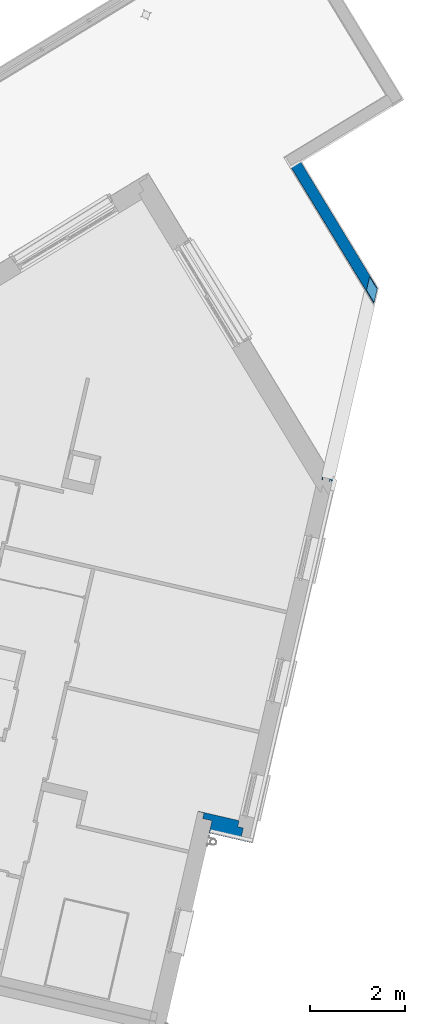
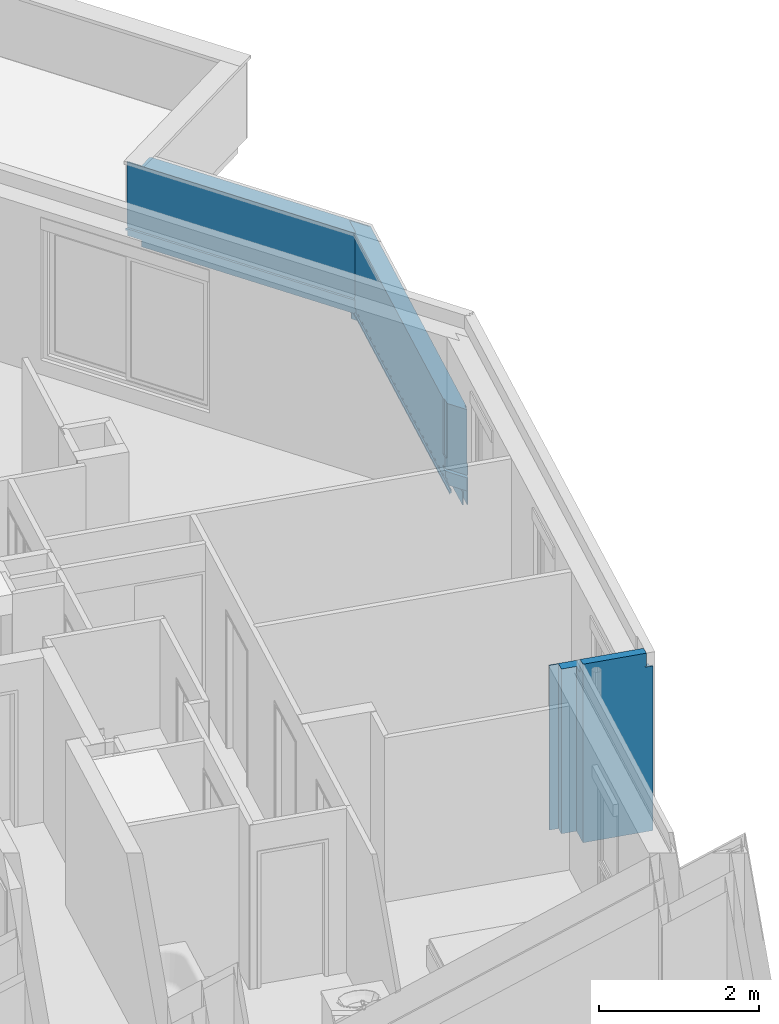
# One storey, part 51 of 91: 3 walls.
"""IFC2X3 building model written with IfcOpenShell, lengths in metres."""

from ifc_helpers import new_model, entity, si_unit, converted_unit, derived_unit, money_unit, direction, frame, origin_with_axes, place, context, subcontext, project, spatial, faceted_brep, material, material_list, type_object, element, save


model = new_model("IFC2X3")

# Units and contexts
model_context = context("Model", 3, precision=1e-05, world=origin_with_axes(), true_north=direction((0.0, 1.0)))
body_context = subcontext(model_context, "Body", "Model", "MODEL_VIEW")
ifc_project = project(units=[si_unit("LENGTHUNIT", "METRE"), si_unit("AREAUNIT", "SQUARE_METRE"), si_unit("VOLUMEUNIT", "CUBIC_METRE"), converted_unit("PLANEANGLEUNIT", "DEGREE", entity("IfcPlaneAngleMeasure", 0.0174532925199), si_unit("PLANEANGLEUNIT", "RADIAN"), dimensions=[0, 0, 0, 0, 0, 0, 0]), si_unit("SOLIDANGLEUNIT", "STERADIAN"), money_unit("EUR"), converted_unit("TIMEUNIT", "Year", entity("IfcTimeMeasure", 31556926.0), si_unit("TIMEUNIT", "SECOND"), dimensions=[0, 0, 1, 0, 0, 0, 0]), si_unit("MASSUNIT", "GRAM", prefix="KILO"), si_unit("THERMODYNAMICTEMPERATUREUNIT", "DEGREE_CELSIUS"), si_unit("LUMINOUSINTENSITYUNIT", "LUMEN"), si_unit("ENERGYUNIT", "JOULE", prefix="MEGA"), derived_unit("THERMALCONDUCTANCEUNIT", [(si_unit("POWERUNIT", "WATT"), 1), (si_unit("LENGTHUNIT", "METRE"), -1), (si_unit("THERMODYNAMICTEMPERATUREUNIT", "KELVIN"), -1)]), derived_unit("SPECIFICHEATCAPACITYUNIT", [(si_unit("ENERGYUNIT", "JOULE"), 1), (si_unit("MASSUNIT", "GRAM", prefix="KILO"), -1), (si_unit("THERMODYNAMICTEMPERATUREUNIT", "KELVIN"), -1)]), derived_unit("MASSDENSITYUNIT", [(si_unit("MASSUNIT", "GRAM", prefix="KILO"), 1), (si_unit("VOLUMEUNIT", "CUBIC_METRE"), -1)])], contexts=[model_context])

# Site, building, storey
site_placement = place(None, origin_with_axes())
site = spatial("IfcSite", under=ifc_project, at=site_placement, Name="Site", CompositionType="ELEMENT")
building_placement = place(site_placement, origin_with_axes())
building = spatial("IfcBuilding", under=site, at=building_placement, Name="Bâtiment", CompositionType="ELEMENT")
storey_placement = place(building_placement, frame((0.0, 0.0, 5.44), z_axis=(0.0, 0.0, 1.0), x_axis=(1.0, 0.0, 0.0)))
storey = spatial("IfcBuildingStorey", under=building, at=storey_placement, Name="R+2", CompositionType="ELEMENT", Elevation=5.44)

# Walls
ifc_material_1 = material(Name="Finition int - Plaque de plâtre")
ifc_material_2 = material(Name="Isolation - Polystyrène extrudé")
ifc_material_3 = material(Name="Bloc ELITHERM")
ifc_material_4 = material(Name="Mortier")
ifc_material_5 = material(Name="Béton cellulaire")
ifc_material_6 = material(Name="Bois - Lattage")
ifc_material_7 = material(Name="Finition ext - Bardage bois")
ifc_material_list_1 = material_list([ifc_material_1, ifc_material_2, ifc_material_3, ifc_material_4, ifc_material_5, ifc_material_6, ifc_material_7])
wall_type_1 = type_object("IfcWallType", Name="Mur ALKERN + planelle 21 BARDAGE courant 395 x 2720", PredefinedType="USERDEFINED")
wall_1_placement = place(storey_placement, frame((-1.12675166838, 6.60234837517, 0.0), z_axis=(0.0, 0.0, 1.0), x_axis=(0.974387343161, -0.224876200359, 0.0)))
element("IfcWall", 1, at=wall_1_placement, inside=storey, type_object=wall_type_1, material=ifc_material_list_1, Name="Mue bloc ALKERN isolé", ObjectType="SOLIDWALL", context=body_context, shape_type="Brep", body=[
    faceted_brep([(0.530808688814, 0.35999998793, 0.0), (-0.335000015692, 0.35999998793, 0.0), (-0.335000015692, 0.35999998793, 2.51), (0.530808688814, 0.35999998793, 2.51000000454), (0.530808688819, 0.350000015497, 0.0), (-0.335000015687, 0.350000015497, 0.0), (-0.335000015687, 0.350000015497, 2.51), (0.530808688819, 0.350000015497, 2.51000000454)], [[[0, 1, 2, 3]], [[4, 5, 1, 0]], [[5, 6, 2, 1]], [[3, 2, 6, 7]], [[4, 0, 3, 7]], [[7, 6, 5, 4]]]),
    faceted_brep([(0.540808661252, 0.350000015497, 0.0), (-0.215000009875, 0.350000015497, 0.0), (-0.215000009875, 0.350000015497, 2.51), (0.540808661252, 0.350000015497, 2.51000000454), (0.540808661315, 0.230000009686, 0.0), (-0.21500000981, 0.230000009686, 0.0), (-0.21500000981, 0.230000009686, 2.51), (0.540808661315, 0.230000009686, 2.51000000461)], [[[0, 1, 2, 3]], [[4, 5, 1, 0]], [[5, 6, 2, 1]], [[3, 2, 6, 7]], [[4, 0, 3, 7]], [[7, 6, 5, 4]]]),
    faceted_brep([(-0.0150000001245, 0.229999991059, 0.0), (-0.0150000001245, 0.229999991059, 2.50999999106), (0.660808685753, 0.229999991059, 2.51000000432), (0.660808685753, 0.229999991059, 0.0), (-0.015000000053, 0.0979999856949, 2.50999999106), (-0.0150000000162, 0.03, 0.0), (-0.0150000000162, 0.03, 2.50999999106), (0.660808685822, 0.0979999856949, 2.51000000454), (0.660808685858, 0.03, 2.51000000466), (0.660808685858, 0.03, 0.0)], [[[0, 1, 2, 3]], [[4, 1, 0, 5, 6]], [[1, 4, 7, 2]], [[3, 2, 7, 8, 9]], [[5, 0, 3, 9]], [[6, 5, 9, 8]], [[4, 6, 8, 7]]]),
    faceted_brep([(-0.015000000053, 0.098, 2.51), (-0.015000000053, 0.098, 2.52), (0.792808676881, 0.098, 2.51999999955), (0.792808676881, 0.098, 2.50999999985), (-0.0150000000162, 0.03, 2.52), (-0.0150000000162, 0.03, 2.51), (0.792808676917, 0.03, 2.51999999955), (0.792808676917, 0.03, 2.50999999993)], [[[0, 1, 2, 3]], [[4, 1, 0, 5]], [[1, 4, 6, 2]], [[3, 2, 6, 7]], [[5, 0, 3, 7]], [[4, 5, 7, 6]]]),
    faceted_brep([(-0.0150000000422, 0.0779999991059, 2.51999999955), (-0.0150000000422, 0.0779999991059, 2.72), (0.812808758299, 0.0779999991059, 2.71999999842), (0.812808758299, 0.0779999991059, 2.51999999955), (-0.0150000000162, 0.03, 2.72), (-0.0150000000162, 0.03, 2.51999999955), (0.812808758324, 0.03, 2.71999999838), (0.812808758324, 0.03, 2.51999999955)], [[[0, 1, 2, 3]], [[4, 1, 0, 5]], [[1, 4, 6, 2]], [[3, 2, 6, 7]], [[5, 0, 3, 7]], [[4, 5, 7, 6]]]),
    faceted_brep([(-0.0150000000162, 0.0300000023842, 2.72), (0.812808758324, 0.0300000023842, 2.71999999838), (0.812808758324, 0.0300000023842, 2.51999999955), (0.792808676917, 0.0300000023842, 2.51999999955), (0.792808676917, 0.0300000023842, 2.50999999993), (0.860808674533, 0.0300000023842, 2.50999999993), (0.860808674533, 0.0300000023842, 0.0), (-0.0150000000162, 0.0300000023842, 0.0), (-0.0149999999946, -0.00999999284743, 2.72), (0.812808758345, -0.00999999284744, 2.71999999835), (0.812808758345, -0.00999999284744, 2.51999999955), (0.792808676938, -0.00999999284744, 2.51999999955), (0.792808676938, -0.00999999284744, 2.50999999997), (0.860808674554, -0.00999999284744, 2.50999999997), (0.860808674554, -0.00999999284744, 0.0), (-0.0149999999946, -0.00999999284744, 0.0)], [[[0, 1, 2, 3, 4, 5, 6, 7]], [[1, 0, 8, 9]], [[10, 2, 1, 9]], [[3, 2, 10, 11]], [[12, 4, 3, 11]], [[12, 13, 5, 4]], [[6, 5, 13, 14]], [[14, 15, 7, 6]], [[15, 8, 0, 7]], [[9, 8, 15, 14, 13, 12, 11, 10]]]),
    faceted_brep([(-0.0149999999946, -0.01, 2.72), (0.812808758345, -0.01, 2.71999999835), (0.812808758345, -0.01, 2.51999999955), (0.792808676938, -0.01, 2.51999999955), (0.792808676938, -0.01, 2.50999999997), (0.900808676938, -0.01, 2.50999999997), (0.900808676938, -0.01, 0.0), (-0.0149999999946, -0.01, 0.0), (-0.0149999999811, -0.0349999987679, 2.72), (0.812808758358, -0.0349999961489, 2.71999999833), (0.812808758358, -0.0349999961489, 2.51999999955), (0.792808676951, -0.0349999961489, 2.51999999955), (0.792808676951, -0.0349999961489, 2.51), (0.900808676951, -0.0349999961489, 2.51), (0.900808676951, -0.0350000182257, 0.0), (-0.0149999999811, -0.0350000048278, 0.0)], [[[0, 1, 2, 3, 4, 5, 6, 7]], [[1, 0, 8, 9]], [[10, 2, 1, 9]], [[3, 2, 10, 11]], [[12, 4, 3, 11]], [[12, 13, 5, 4]], [[6, 5, 13, 14]], [[14, 15, 7, 6]], [[15, 8, 0, 7]], [[9, 8, 15, 14, 13, 12, 11, 10]]]),
])
ifc_material_8 = material(Name="Finition ext - Crépis")
ifc_material_9 = material(Name="Béton")
ifc_material_10 = material(Name="Etanchéité - Bitume")
ifc_material_11 = material(Name="Métal - Aluminium")
ifc_material_list_2 = material_list([ifc_material_8, ifc_material_9, ifc_material_10, ifc_material_8, ifc_material_11])
wall_type_2 = type_object("IfcWallType", Name="Acrotère pour plancher 21 isolée TERRASSE ACCESSIBLE 235 x 1240", PredefinedType="USERDEFINED")
wall_2_placement = place(storey_placement, frame((0.757663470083, 20.6515866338, 0.0), z_axis=(0.0, 0.0, 1.0), x_axis=(0.519386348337, -0.854539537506, 0.0)))
element("IfcWall", 2, at=wall_2_placement, inside=storey, type_object=wall_type_2, material=ifc_material_list_2, Name="Muret béton 20cm", ObjectType="PARAPET", context=body_context, shape_type="Brep", body=[
    faceted_brep([(0.0, 0.0, 0.228976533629), (0.0, 0.0, 0.267041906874), (0.0, -5.72393688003e-10, 1.24), (3.09917731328, -8.28521251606e-09, 1.24), (3.09917731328, -8.28521429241e-09, 0.267041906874), (3.12065961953, -8.28521429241e-09, 0.267041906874), (3.12065961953, -8.28521429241e-09, 0.192882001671), (3.09917731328, -8.28521429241e-09, 0.192882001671), (3.09917731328, -8.28521429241e-09, 0.1), (3.09917731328, -8.28521429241e-09, 0.0570419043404), (2.81274657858, -8.28521429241e-09, 0.0570419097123), (2.81124941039, -8.28521606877e-09, 0.0570419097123), (2.81124941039, -8.28521606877e-09, 0.0200236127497), (2.80753293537, -8.28521429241e-09, 0.0189765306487), (2.78340940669, -8.28521429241e-09, 0.0121799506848), (2.78340940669, -8.28521429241e-09, 0.0100000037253), (2.78340940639, -8.28521606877e-09, 0.0), (0.0, -5.94088334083e-10, 0.0), (0.0, 0.0, 0.1), (0.0, 0.0, 0.192882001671), (0.0, 0.0, 0.22), (0.0, -0.015, 0.228976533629), (0.0, -0.015, 0.267041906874), (0.0, -0.015, 1.24), (3.11455551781, -0.015, 1.24), (3.11455551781, -0.015, 0.267041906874), (3.13603781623, -0.0149999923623, 0.267041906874), (3.13603781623, -0.0149999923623, 0.192882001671), (3.11455551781, -0.015, 0.192882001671), (3.11455551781, -0.015, 0.1), (3.11455551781, -0.015, 0.0570419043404), (2.8281247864, -0.0150000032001, 0.0570419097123), (2.82662761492, -0.015, 0.0570419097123), (2.82662761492, -0.015, 0.0200236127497), (2.82291113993, -0.0150000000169, 0.0189765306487), (2.79878761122, -0.015, 0.0121799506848), (2.79878761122, -0.015, 0.0100000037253), (2.79878761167, -0.0150000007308, 0.0), (0.0, -0.0150000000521, 0.0), (0.0, -0.015, 0.1), (0.0, -0.015, 0.192882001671), (0.0, -0.015, 0.22)], [[[0, 1, 2, 3, 4, 5, 6, 7, 8, 9, 10, 11, 12, 13, 14, 15, 16, 17, 18, 19, 20]], [[21, 22, 1, 0]], [[22, 23, 2, 1]], [[3, 2, 23, 24]], [[25, 4, 3, 24]], [[25, 26, 5, 4]], [[6, 5, 26, 27]], [[28, 7, 6, 27]], [[29, 8, 7, 28]], [[9, 8, 29, 30]], [[10, 9, 30, 31]], [[32, 11, 10, 31]], [[33, 12, 11, 32]], [[34, 13, 12, 33]], [[14, 13, 34, 35]], [[36, 15, 14, 35]], [[16, 15, 36, 37]], [[37, 38, 17, 16]], [[38, 39, 18, 17]], [[39, 40, 19, 18]], [[40, 41, 20, 19]], [[41, 21, 0, 20]], [[24, 23, 22, 21, 41, 40, 39, 38, 37, 36, 35, 34, 33, 32, 31, 30, 29, 28, 27, 26, 25]]]),
    faceted_brep([(-0.0150000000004, -0.015, 0.228976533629), (-0.0150000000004, -0.015, 0.267041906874), (-0.0150000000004, -0.015, 1.24), (2.82812478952, -0.015, 1.24), (2.82812478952, -0.015, 0.267041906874), (3.11455551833, -0.0149999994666, 0.267041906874), (3.13603781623, -0.0149999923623, 0.267041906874), (3.13603781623, -0.0149999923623, 0.192882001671), (3.11455551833, -0.0149999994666, 0.192882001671), (2.82812478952, -0.015, 0.192882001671), (2.82812478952, -0.015, 0.1), (2.82812478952, -0.015, 0.0570419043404), (2.82662761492, -0.015, 0.0570419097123), (2.82662761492, -0.015, 0.0200236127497), (2.82291113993, -0.0150000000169, 0.0189765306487), (2.79878761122, -0.015, 0.0121799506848), (2.79878761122, -0.015, 0.0100000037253), (2.79878761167, -0.0150000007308, 0.0), (-0.0150000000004, -0.0150000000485, 0.0), (-0.0150000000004, -0.015, 0.1), (-0.0150000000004, -0.015, 0.192882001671), (-0.0150000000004, -0.015, 0.22), (-0.0150000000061, -0.215, 0.228976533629), (-0.0150000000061, -0.215, 0.267041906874), (-0.0150000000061, -0.215, 1.24), (3.0331676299, -0.215, 1.24), (3.0331676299, -0.215, 0.267041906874), (3.31959835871, -0.214999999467, 0.267041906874), (3.34108065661, -0.214999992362, 0.267041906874), (3.34108064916, -0.215, 0.228976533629), (3.34108064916, -0.215, 0.22), (3.34108065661, -0.214999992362, 0.192882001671), (3.31959835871, -0.214999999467, 0.192882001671), (3.0331676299, -0.215, 0.192882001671), (3.0331676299, -0.215, 0.1), (3.0331676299, -0.215, 0.0570419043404), (3.0316704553, -0.215, 0.0570419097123), (3.0316704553, -0.215, 0.0200236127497), (3.0279539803, -0.215000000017, 0.0189765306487), (3.0038304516, -0.215, 0.0121799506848), (3.0038304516, -0.215, 0.0100000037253), (3.00383045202, -0.215000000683, 0.0), (-0.0150000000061, -0.215000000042, 0.0), (-0.0150000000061, -0.215, 0.1), (-0.0150000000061, -0.215, 0.192882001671), (-0.0150000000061, -0.215, 0.22)], [[[0, 1, 2, 3, 4, 5, 6, 7, 8, 9, 10, 11, 12, 13, 14, 15, 16, 17, 18, 19, 20, 21]], [[22, 23, 1, 0]], [[23, 24, 2, 1]], [[3, 2, 24, 25]], [[26, 4, 3, 25]], [[26, 27, 5, 4]], [[6, 5, 27, 28]], [[7, 6, 28, 29, 30, 31]], [[31, 32, 8, 7]], [[33, 9, 8, 32]], [[34, 10, 9, 33]], [[11, 10, 34, 35]], [[12, 11, 35, 36]], [[37, 13, 12, 36]], [[38, 14, 13, 37]], [[15, 14, 38, 39]], [[40, 16, 15, 39]], [[17, 16, 40, 41]], [[41, 42, 18, 17]], [[42, 43, 19, 18]], [[43, 44, 20, 19]], [[44, 45, 21, 20]], [[45, 22, 0, 21]], [[25, 24, 23, 22, 29, 28, 27, 26]], [[29, 22, 45, 30]], [[30, 45, 44, 43, 34, 33, 32, 31]], [[34, 43, 42, 41, 40, 39, 38, 37, 36, 35]]]),
    faceted_brep([(3.02193746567, -0.225, 0.11), (3.01168532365, -0.21499999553, 0.11), (3.01168532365, -0.215, 0.192882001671), (3.02193746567, -0.225, 0.192882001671), (-0.204184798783, -0.21499999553, 0.11), (-0.215000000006, -0.225, 0.11), (-0.215000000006, -0.215, 0.11), (-0.215000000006, -0.215, 0.192882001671), (-0.215000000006, -0.215, 0.22), (3.34108064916, -0.215, 0.22), (3.34108065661, -0.214999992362, 0.192882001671), (3.31959835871, -0.214999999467, 0.192882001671), (3.0331676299, -0.215, 0.192882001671), (3.04341977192, -0.225, 0.192882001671), (3.32985050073, -0.224999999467, 0.192882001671), (3.35133279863, -0.224999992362, 0.192882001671), (3.35133279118, -0.225, 0.22), (-0.215000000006, -0.225, 0.22), (-0.215000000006, -0.225, 0.192882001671)], [[[0, 1, 2, 3]], [[4, 1, 0, 5, 6]], [[4, 6, 7, 8, 9, 10, 11, 12, 2, 1]], [[3, 2, 12, 13]], [[5, 0, 3, 13, 14, 15, 16, 17, 18]], [[6, 5, 18, 7]], [[18, 17, 8, 7]], [[9, 8, 17, 16]], [[16, 15, 10, 9]], [[15, 14, 11, 10]], [[14, 13, 12, 11]]]),
    faceted_brep([(-0.215000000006, -0.215, 0.267041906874), (-0.215000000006, -0.215, 1.24), (3.01168532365, -0.215, 1.24), (3.01168532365, -0.215, 0.267041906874), (-0.215000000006, -0.23, 1.24), (-0.215000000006, -0.216045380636, 0.267041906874), (-0.215000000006, -0.23, 0.267041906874), (3.02706353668, -0.23, 1.24), (3.02706353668, -0.23, 0.267041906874), (3.01275706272, -0.216045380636, 0.267041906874)], [[[0, 1, 2, 3]], [[4, 1, 0, 5, 6]], [[1, 4, 7, 2]], [[3, 2, 7, 8, 9]], [[5, 0, 3, 9]], [[6, 5, 9, 8]], [[4, 6, 8, 7]]]),
    faceted_brep([(-0.215000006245, -0.215, 0.228976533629), (-0.215000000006, -0.215, 0.267041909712), (3.34108064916, -0.215, 0.267041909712), (3.34108064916, -0.215, 0.228976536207), (-0.215000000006, -0.216045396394, 0.267041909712), (-0.215000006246, -0.218640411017, 0.228976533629), (-0.215000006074, -0.216045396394, 0.23002361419), (3.34215240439, -0.216045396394, 0.267041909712), (3.36081660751, -0.234250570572, 0.221101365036), (3.34215240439, -0.216045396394, 0.230023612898), (3.36208180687, -0.235484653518, 0.222179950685), (3.36208180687, -0.235484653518, 0.192882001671), (3.36081660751, -0.234250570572, 0.192882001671), (-0.234250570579, -0.234250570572, 0.221101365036), (-0.234250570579, -0.235484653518, 0.221101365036), (-0.231614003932, -0.235484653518, 0.222179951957), (-0.234250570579, -0.235484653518, 0.22), (-0.234250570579, -0.235484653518, 0.192882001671), (-0.234250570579, -0.234250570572, 0.192882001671), (-0.234250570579, -0.234250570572, 0.22)], [[[0, 1, 2, 3]], [[4, 1, 0, 5, 6]], [[1, 4, 7, 2]], [[8, 3, 2, 7, 9, 10, 11, 12]], [[13, 0, 3, 8]], [[5, 0, 13, 14, 15]], [[6, 5, 15, 10, 9]], [[4, 6, 9, 7]], [[14, 16, 17, 11, 10, 15]], [[17, 18, 12, 11]], [[19, 13, 8, 12, 18]], [[13, 19, 16, 14]], [[16, 19, 18, 17]]]),
])
wall_type_3 = type_object("IfcWallType", Name="Acrotère pour plancher 21 isolée TERRASSE ACCESSIBLE 235 x 1450", PredefinedType="USERDEFINED")
wall_3_placement = place(storey_placement, frame((2.37849146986, 17.9848596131, -0.21), z_axis=(0.0, 0.0, 1.0), x_axis=(-0.224876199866, -0.974387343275, 0.0)))
element("IfcWall", 3, at=wall_3_placement, inside=storey, type_object=wall_type_3, material=ifc_material_list_2, Name="Muret béton 20cm", ObjectType="PARAPET", context=body_context, shape_type="Brep", body=[
    faceted_brep([(0.313126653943, -1.87704181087e-08, 0.438976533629), (0.309410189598, -1.89488158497e-08, 0.440023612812), (0.309410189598, -1.89488158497e-08, 0.477041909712), (0.307913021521, -1.89488162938e-08, 0.477041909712), (0.0214822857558, -1.89488158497e-08, 0.477041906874), (-9.16239883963e-09, -8.93705820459e-09, 0.477041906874), (1.18657013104e-08, 0.0, 1.45), (4.09536792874, 8.88268814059e-09, 1.45), (4.09536790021, -1.8948817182e-08, 0.61), (4.13117173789, -2.31326775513e-08, 0.61), (4.17307969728, 0.0, 0.609999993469), (4.17307969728, 0.0, 0.445000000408), (4.0843561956, -1.89488167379e-08, 0.445000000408), (4.08435619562, -1.89238709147e-08, 0.439999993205), (4.08435619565, -1.89488140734e-08, 0.41), (4.0915169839, -3.89927921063e-08, 0.410000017), (4.17307969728, 0.0, 0.410000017), (4.17307969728, 0.0, 0.0), (-7.77111353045e-09, -1.87332966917e-08, 0.0), (-7.56089590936e-09, -1.89488158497e-08, 0.21), (-1.03242285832e-08, -1.00703170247e-08, 0.402882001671), (0.0214822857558, -1.89488158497e-08, 0.402882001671), (0.307913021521, -1.89488145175e-08, 0.402882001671), (0.322234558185, -1.88220727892e-08, 0.402882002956), (0.335482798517, -1.74549672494e-08, 0.402882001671), (0.337250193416, -1.89488154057e-08, 0.402882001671), (0.337250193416, -1.89488154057e-08, 0.43), (0.337250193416, -1.89488154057e-08, 0.432179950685), (0.294031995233, -0.0150000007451, 0.440023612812), (0.297748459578, -0.0150000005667, 0.438976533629), (0.294031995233, -0.0150000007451, 0.477041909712), (0.292534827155, -0.0150000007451, 0.477041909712), (0.00610409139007, -0.0150000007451, 0.477041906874), (-0.0153782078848, -0.0149999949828, 0.477041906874), (-0.0153782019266, -0.0150000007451, 1.45), (4.07998971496, -0.0149999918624, 1.45), (4.07998970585, -0.0150000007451, 0.61), (4.11579354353, -0.0150000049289, 0.61), (4.1659189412, -0.0150000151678, 0.609999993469), (4.17307971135, -0.00801535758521, 0.609999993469), (4.17307969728, -0.00801534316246, 0.445000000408), (4.16591892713, -0.0150000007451, 0.445000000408), (4.06897800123, -0.0150000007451, 0.445000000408), (4.06897800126, -0.0150000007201, 0.439999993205), (4.06897800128, -0.0150000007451, 0.41), (4.07613878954, -0.015000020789, 0.410000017), (4.15875817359, -0.0149999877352, 0.41), (4.17307968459, -0.00103070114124, 0.41), (4.17307968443, -0.0149999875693, 0.41), (4.17307969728, -0.0150000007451, 0.0), (-0.0153782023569, -0.0150000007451, 0.0), (-0.0153782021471, -0.0150000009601, 0.21), (-0.0153782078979, -0.0149999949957, 0.402882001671), (0.00610409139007, -0.0150000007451, 0.402882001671), (0.292534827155, -0.0150000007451, 0.402882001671), (0.30685636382, -0.0150000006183, 0.402882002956), (0.320104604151, -0.0149999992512, 0.402882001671), (0.32187199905, -0.0150000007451, 0.402882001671), (0.32187199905, -0.0150000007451, 0.43), (0.32187199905, -0.0150000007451, 0.432179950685)], [[[0, 1, 2, 3, 4, 5, 6, 7, 8, 9, 10, 11, 12, 13, 14, 15, 16, 17, 18, 19, 20, 21, 22, 23, 24, 25, 26, 27]], [[28, 1, 0, 29]], [[30, 2, 1, 28]], [[30, 31, 3, 2]], [[4, 3, 31, 32]], [[33, 5, 4, 32]], [[33, 34, 6, 5]], [[34, 35, 7, 6]], [[36, 8, 7, 35]], [[37, 9, 8, 36]], [[38, 39, 10, 9, 37]], [[40, 11, 10, 39]], [[12, 11, 40, 41, 42]], [[12, 42, 43, 13]], [[43, 44, 14, 13]], [[44, 45, 15, 14]], [[45, 46, 47, 16, 15]], [[16, 47, 48, 49, 17]], [[49, 50, 18, 17]], [[50, 51, 19, 18]], [[52, 20, 19, 51]], [[21, 20, 52, 53]], [[21, 53, 54, 22]], [[54, 55, 23, 22]], [[56, 24, 23, 55]], [[25, 24, 56, 57]], [[58, 26, 25, 57]], [[27, 26, 58, 59]], [[59, 29, 0, 27]], [[30, 28, 29, 59, 58, 57, 56, 55, 54, 53, 52, 51, 50, 49, 48, 46, 45, 44, 43, 42, 41, 38, 37, 36, 35, 34, 33, 32, 31]], [[41, 40, 39, 38]], [[46, 48, 47]]]),
    faceted_brep([(0.0338238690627, -0.0829532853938, 0.00999999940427), (0.0337759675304, -0.0830000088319, 0.01), (0.00513288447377, -0.0830000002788, 0.00999999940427), (0.025637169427, -0.0629999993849, 0.00999999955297), (4.17307969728, -0.0629999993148, 0.00999999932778), (4.17307969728, -0.0759631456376, 0.00999999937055), (0.0338238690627, -0.0829532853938, 0.21), (-0.101552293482, -0.21499999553, 0.21), (-0.10155229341, -0.214999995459, 0.0999999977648), (-0.101552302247, -0.215000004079, 0.00999999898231), (-0.1301953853, -0.21499999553, 0.00999999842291), (-0.130195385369, -0.214999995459, 0.0999999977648), (0.025637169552, -0.0629999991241, 0.0999999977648), (4.17307969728, -0.0629999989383, 0.0999999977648), (4.17307969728, -0.0759631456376, 0.21), (4.17307969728, -0.0629999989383, 0.192881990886), (4.17307969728, -0.062999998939, 0.21), (4.11047099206, -0.0760688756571, 0.21), (3.96803683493, -0.21499999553, 0.21), (3.96803683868, -0.21499999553, 0.220000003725), (-0.220421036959, -0.21499999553, 0.220000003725), (-0.220421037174, -0.214999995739, 0.209999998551), (-0.13019538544, -0.21499999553, 0.209999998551), (-0.130195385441, -0.214999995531, 0.192881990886), (0.0256371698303, -0.0629999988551, 0.192881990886), (0.0256371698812, -0.0629999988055, 0.209999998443), (4.12386939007, -0.0629999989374, 0.21), (4.17307968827, -0.0149999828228, 0.21), (4.17307969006, -0.0149999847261, 0.220000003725), (3.96803684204, -0.21499999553, 0.228976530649), (-0.220421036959, -0.21499999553, 0.228976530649), (-0.220421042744, -0.214999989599, 0.26704190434), (-0.0153782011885, -0.0149999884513, 0.26704190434), (-0.0153782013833, -0.014999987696, 0.209999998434), (-0.0645884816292, -0.0629999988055, 0.209999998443), (-0.0431062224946, -0.0629999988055, 0.209999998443), (0.00610407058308, -0.014999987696, 0.209999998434), (0.292534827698, -0.0150000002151, 0.477041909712), (0.00610409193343, -0.0150000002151, 0.477041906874), (0.00610409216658, -0.0149999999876, 1.45), (4.17307969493, -0.0149999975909, 1.45), (4.17307970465, -0.0150000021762, 0.609999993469), (4.16591892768, -0.0150000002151, 0.61), (4.16591892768, -0.0150000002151, 0.445000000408), (4.06897800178, -0.0150000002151, 0.445000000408), (4.0689780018, -0.0150000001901, 0.439999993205), (4.06897800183, -0.0150000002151, 0.41), (4.07613879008, -0.015000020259, 0.410000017), (4.15875817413, -0.0149999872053, 0.41), (4.17307968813, -0.0149999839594, 0.41), (4.173079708, -0.0150000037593, 0.319999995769), (4.1730796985, -0.0149999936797, 0.26704190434), (4.17307969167, -0.0149999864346, 0.228976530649), (0.00610409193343, -0.0150000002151, 0.26704190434), (0.00610409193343, -0.0150000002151, 0.31), (0.00610409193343, -0.0150000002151, 0.402882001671), (0.292534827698, -0.0150000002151, 0.402882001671), (0.306856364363, -0.0150000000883, 0.402882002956), (0.320104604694, -0.0149999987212, 0.402882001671), (0.321871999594, -0.0150000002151, 0.402882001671), (0.321871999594, -0.0150000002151, 0.43), (0.321871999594, -0.0150000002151, 0.432179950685), (0.297748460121, -0.0150000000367, 0.438976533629), (0.294031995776, -0.0150000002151, 0.440023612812), (0.294031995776, -0.0150000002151, 0.477041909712), (3.96803685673, -0.21499999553, 1.45), (-0.198938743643, -0.21499999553, 1.45), (-0.198938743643, -0.21499999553, 0.477041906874), (0.0874919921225, -0.21499999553, 0.477041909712), (0.0889891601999, -0.21499999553, 0.477041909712), (0.0889891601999, -0.21499999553, 0.440023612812), (0.092705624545, -0.214999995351, 0.438976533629), (0.116829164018, -0.21499999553, 0.432179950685), (0.116829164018, -0.21499999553, 0.43), (0.116829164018, -0.21499999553, 0.402882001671), (0.115061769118, -0.214999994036, 0.402882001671), (0.101813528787, -0.214999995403, 0.402882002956), (0.0874919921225, -0.21499999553, 0.402882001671), (-0.198938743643, -0.21499999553, 0.402882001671), (-0.198938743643, -0.21499999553, 0.31), (-0.198938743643, -0.21499999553, 0.26704190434), (3.96803685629, -0.21499999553, 0.26704190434), (3.96803687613, -0.21499999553, 0.319999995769), (3.96803685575, -0.214999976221, 0.41), (3.95371533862, -0.21499998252, 0.41), (3.87109595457, -0.215000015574, 0.410000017), (3.86393516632, -0.21499999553, 0.41), (3.8639351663, -0.214999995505, 0.439999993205), (3.86393516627, -0.21499999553, 0.445000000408), (3.96087609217, -0.21499999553, 0.445000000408), (3.96087609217, -0.21499999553, 0.61), (3.96803686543, -0.215000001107, 0.609999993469)], [[[0, 1, 2, 3, 4, 5]], [[1, 0, 6, 7, 8, 9]], [[1, 9, 10, 2]], [[10, 11, 12, 3, 2]], [[3, 12, 13, 4]], [[14, 5, 4, 13, 15, 16]], [[0, 5, 14, 17, 6]], [[18, 7, 6, 17]], [[7, 18, 19, 20, 21, 22, 23, 11, 8]], [[9, 8, 11, 10]], [[11, 23, 24, 12]], [[12, 24, 15, 13]], [[25, 26, 16, 15, 24]], [[17, 14, 16, 26]], [[18, 17, 26, 27, 28, 19]], [[20, 19, 29, 30]], [[30, 31, 32, 33, 34, 21, 20]], [[22, 21, 34, 35, 25]], [[22, 25, 24, 23]], [[36, 27, 26, 25, 35]], [[37, 38, 39, 40, 41, 42, 43, 44, 45, 46, 47, 48, 49, 50, 51, 52, 28, 27, 36, 33, 32, 53, 54, 55, 56, 57, 58, 59, 60, 61, 62, 63, 64]], [[28, 52, 29, 19]], [[65, 66, 67, 68, 69, 70, 71, 72, 73, 74, 75, 76, 77, 78, 79, 80, 31, 30, 29, 81, 82, 83, 84, 85, 86, 87, 88, 89, 90, 91]], [[80, 53, 32, 31]], [[35, 34, 33, 36]], [[68, 67, 38, 37]], [[67, 66, 39, 38]], [[40, 39, 66, 65]], [[91, 41, 40, 65]], [[42, 41, 91, 90]], [[89, 43, 42, 90]], [[88, 44, 43, 89]], [[87, 45, 44, 88]], [[46, 45, 87, 86]], [[86, 85, 47, 46]], [[85, 84, 48, 47]], [[83, 49, 48, 84]], [[82, 50, 49, 83]], [[51, 50, 82, 81]], [[52, 51, 81, 29]], [[80, 79, 54, 53]], [[79, 78, 55, 54]], [[78, 77, 56, 55]], [[77, 76, 57, 56]], [[76, 75, 58, 57]], [[74, 59, 58, 75]], [[74, 73, 60, 59]], [[72, 61, 60, 73]], [[72, 71, 62, 61]], [[70, 63, 62, 71]], [[69, 64, 63, 70]], [[69, 68, 37, 64]]]),
    faceted_brep([(-0.101552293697, -0.214999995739, 0.21), (-0.101552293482, -0.21499999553, 0.0999999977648), (-0.130195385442, -0.21499999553, 0.0999999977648), (-0.130195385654, -0.214999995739, 0.209999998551), (-0.220421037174, -0.214999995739, 0.209999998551), (-0.220421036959, -0.21499999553, 0.220000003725), (3.96803683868, -0.21499999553, 0.220000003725), (3.96803683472, -0.214999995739, 0.21), (-0.111804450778, -0.225000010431, 0.21), (-0.111804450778, -0.225000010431, 0.0999999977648), (-0.140447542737, -0.225000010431, 0.0999999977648), (-0.140447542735, -0.225000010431, 0.209999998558), (-0.230673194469, -0.225000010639, 0.209999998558), (-0.230673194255, -0.225000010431, 0.220000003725), (3.95778468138, -0.225000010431, 0.220000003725), (3.95778467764, -0.225000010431, 0.21)], [[[0, 1, 2, 3, 4, 5, 6, 7]], [[1, 0, 8, 9]], [[1, 9, 10, 2]], [[10, 11, 3, 2]], [[11, 12, 4, 3]], [[5, 4, 12, 13]], [[13, 14, 6, 5]], [[15, 7, 6, 14]], [[0, 7, 15, 8]], [[8, 15, 14, 13, 12, 11, 10, 9]]]),
    faceted_brep([(3.96803687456, -0.214999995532, 0.31), (0.0874919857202, -0.21499999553, 0.31), (0.0874919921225, -0.21499999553, 0.402882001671), (0.101813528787, -0.214999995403, 0.402882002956), (0.115061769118, -0.214999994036, 0.402882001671), (0.116829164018, -0.21499999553, 0.402882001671), (0.116829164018, -0.21499999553, 0.43), (0.116829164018, -0.21499999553, 0.432179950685), (0.092705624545, -0.214999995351, 0.438976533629), (0.0889891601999, -0.21499999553, 0.440023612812), (0.0889891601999, -0.21499999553, 0.477041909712), (0.0874919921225, -0.21499999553, 0.477041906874), (0.0874919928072, -0.214999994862, 1.45), (3.87494687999, -0.214999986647, 1.45), (3.87494687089, -0.21499999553, 0.61), (3.91075070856, -0.214999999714, 0.61), (3.96087610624, -0.215000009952, 0.609999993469), (3.96087609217, -0.21499999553, 0.445000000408), (3.86393516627, -0.21499999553, 0.445000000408), (3.8639351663, -0.214999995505, 0.439999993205), (3.86393516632, -0.21499999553, 0.41), (3.87109595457, -0.215000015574, 0.410000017), (3.95371533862, -0.21499998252, 0.41), (3.96803685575, -0.214999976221, 0.41), (3.96803687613, -0.21499999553, 0.319999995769), (0.07211377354, -0.229999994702, 0.31), (3.95265866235, -0.229999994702, 0.31), (0.0721137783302, -0.229999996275, 0.402882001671), (0.0864353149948, -0.229999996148, 0.402882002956), (0.0996835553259, -0.229999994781, 0.402882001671), (0.101450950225, -0.229999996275, 0.402882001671), (0.101450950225, -0.229999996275, 0.43), (0.101450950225, -0.229999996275, 0.432179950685), (0.0773274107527, -0.229999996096, 0.438976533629), (0.0736109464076, -0.229999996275, 0.440023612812), (0.0736109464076, -0.229999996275, 0.477041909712), (0.0721137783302, -0.229999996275, 0.477041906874), (0.0721137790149, -0.229999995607, 1.45), (3.85956866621, -0.229999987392, 1.45), (3.8595686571, -0.229999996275, 0.61), (3.89537249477, -0.230000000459, 0.61), (3.94549789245, -0.230000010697, 0.609999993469), (3.94549787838, -0.229999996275, 0.445000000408), (3.84855695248, -0.229999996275, 0.445000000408), (3.84855695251, -0.22999999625, 0.439999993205), (3.84855695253, -0.229999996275, 0.41), (3.85571774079, -0.230000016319, 0.410000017), (3.93833712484, -0.229999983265, 0.41), (3.95265864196, -0.229999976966, 0.41), (3.95265866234, -0.229999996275, 0.319999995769)], [[[0, 1, 2, 3, 4, 5, 6, 7, 8, 9, 10, 11, 12, 13, 14, 15, 16, 17, 18, 19, 20, 21, 22, 23, 24]], [[25, 1, 0, 26]], [[1, 25, 27, 2]], [[27, 28, 3, 2]], [[28, 29, 4, 3]], [[30, 5, 4, 29]], [[30, 31, 6, 5]], [[32, 7, 6, 31]], [[32, 33, 8, 7]], [[34, 9, 8, 33]], [[35, 10, 9, 34]], [[35, 36, 11, 10]], [[36, 37, 12, 11]], [[13, 12, 37, 38]], [[39, 14, 13, 38]], [[40, 15, 14, 39]], [[16, 15, 40, 41]], [[17, 16, 41, 42]], [[43, 18, 17, 42]], [[44, 19, 18, 43]], [[20, 19, 44, 45]], [[45, 46, 21, 20]], [[46, 47, 22, 21]], [[48, 23, 22, 47]], [[49, 24, 23, 48]], [[26, 0, 24, 49]], [[25, 26, 49, 48, 47, 46, 45, 44, 43, 42, 41, 40, 39, 38, 37, 36, 35, 34, 33, 32, 31, 30, 29, 28, 27]]]),
    faceted_brep([(-0.220421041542, -0.215, 0.228976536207), (-0.220421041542, -0.215, 0.267041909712), (4.17307969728, -0.215, 0.267041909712), (4.17307969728, -0.215, 0.228976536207), (-0.221492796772, -0.216045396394, 0.267041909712), (-0.240156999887, -0.234250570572, 0.221101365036), (-0.240157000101, -0.23425057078, 0.21), (-0.241422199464, -0.235484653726, 0.21), (-0.24142219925, -0.235484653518, 0.222179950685), (-0.221492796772, -0.216045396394, 0.230023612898), (4.17307969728, -0.216045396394, 0.267041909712), (4.17307969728, -0.216045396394, 0.230023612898), (4.17307969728, -0.235484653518, 0.222179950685), (4.17307969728, -0.235484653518, 0.192882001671), (4.17307969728, -0.234250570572, 0.192882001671), (4.17307969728, -0.234250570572, 0.221101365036), (-0.240157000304, -0.234250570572, 0.192882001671), (-0.241422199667, -0.235484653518, 0.192882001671)], [[[0, 1, 2, 3]], [[4, 1, 0, 5, 6, 7, 8, 9]], [[1, 4, 10, 2]], [[11, 12, 13, 14, 15, 3, 2, 10]], [[5, 0, 3, 15]], [[6, 5, 15, 14, 16]], [[7, 6, 16, 17]], [[8, 7, 17, 13, 12]], [[9, 8, 12, 11]], [[4, 9, 11, 10]], [[17, 16, 14, 13]]]),
])

save(model, "model.ifc")
